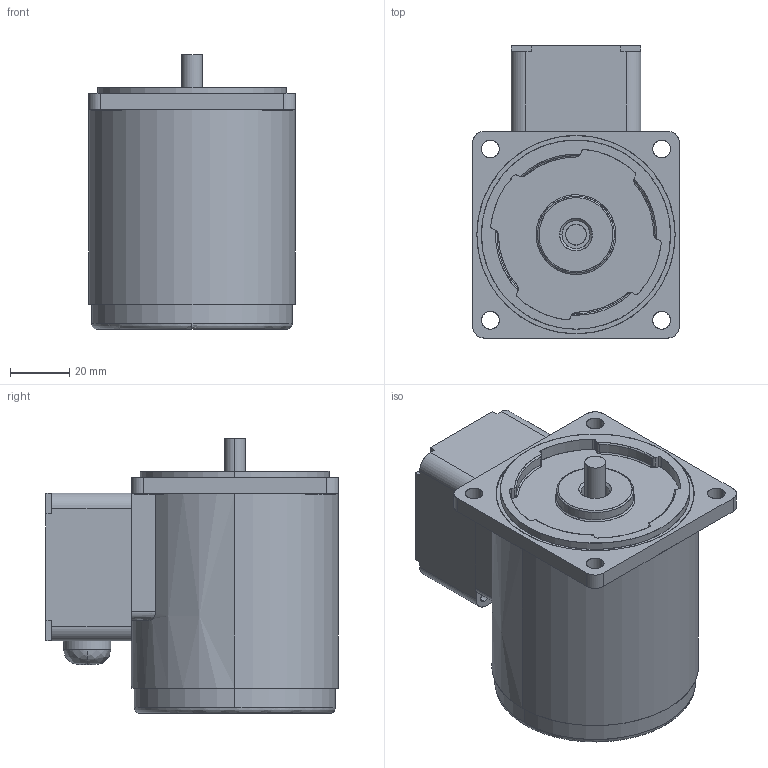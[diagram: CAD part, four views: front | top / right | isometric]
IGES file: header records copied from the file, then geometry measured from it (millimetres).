
Start section: SolidWorks IGES file using analytic representation for surfaces
Bounding box: 70 x 99 x 93 mm (x, y, z)
Surface area: 65017.6 mm2 (no closed solid volume)
Topology: 0 solids, 0 shells, 191 faces, 3539 edges, 3538 vertices
Faces by surface type: revolution 97, bspline 94
